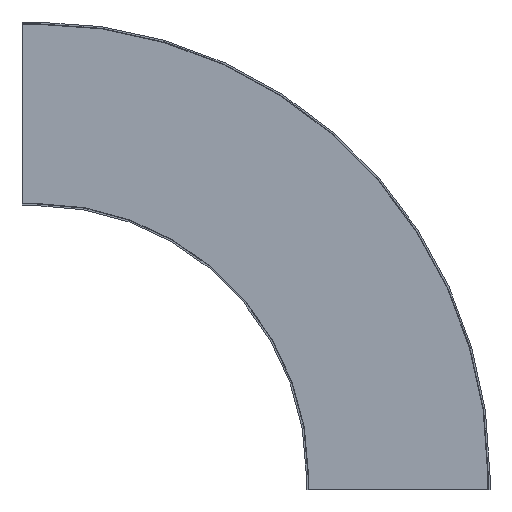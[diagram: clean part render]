
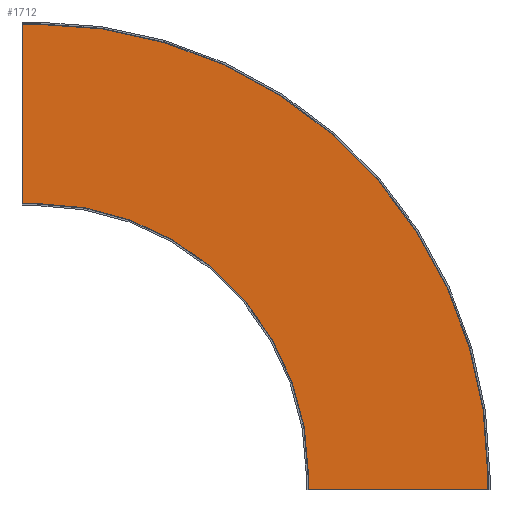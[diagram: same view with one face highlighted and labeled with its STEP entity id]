
A CAD part, front view. The second image highlights one B-rep face of the part: STEP entity #1712.
In plain terms, the highlighted planar face has unit normal (0, -1, 0).
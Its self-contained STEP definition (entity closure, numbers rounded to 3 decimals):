
#147 = CARTESIAN_POINT ( 'NONE',  ( 0., -68.25, 0. ) ) ;
#161 = CARTESIAN_POINT ( 'NONE',  ( -52.5, -68.25, 962.5 ) ) ;
#215 = DIRECTION ( 'NONE',  ( 1., 0., 0. ) ) ;
#298 = AXIS2_PLACEMENT_3D ( 'NONE', #1016, #2339, #1796 ) ;
#299 = DIRECTION ( 'NONE',  ( -1., 0., 0. ) ) ;
#401 = VECTOR ( 'NONE', #215, 1000. ) ;
#420 = EDGE_CURVE ( 'NONE', #2346, #1551, #446, .T. ) ;
#427 = VERTEX_POINT ( 'NONE', #1395 ) ;
#446 = LINE ( 'NONE', #2059, #2211 ) ;
#449 = CARTESIAN_POINT ( 'NONE',  ( 1597.5, -68.25, -52.5 ) ) ;
#499 = LINE ( 'NONE', #2061, #1492 ) ;
#538 = AXIS2_PLACEMENT_3D ( 'NONE', #147, #1491, #1864 ) ;
#565 = VERTEX_POINT ( 'NONE', #449 ) ;
#632 = ORIENTED_EDGE ( 'NONE', *, *, #885, .T. ) ;
#698 = FACE_OUTER_BOUND ( 'NONE', #1297, .T. ) ;
#703 = ORIENTED_EDGE ( 'NONE', *, *, #2179, .F. ) ;
#710 = ORIENTED_EDGE ( 'NONE', *, *, #1837, .F. ) ;
#716 = EDGE_CURVE ( 'NONE', #565, #427, #2208, .T. ) ;
#725 = LINE ( 'NONE', #787, #401 ) ;
#746 = DIRECTION ( 'NONE',  ( -1., 0., 0. ) ) ;
#787 = CARTESIAN_POINT ( 'NONE',  ( -52.5, -68.25, 1597.5 ) ) ;
#885 = EDGE_CURVE ( 'NONE', #1229, #1662, #2388, .T. ) ;
#935 = CARTESIAN_POINT ( 'NONE',  ( -52.5, -68.25, 962.5 ) ) ;
#1016 = CARTESIAN_POINT ( 'NONE',  ( 0., -68.25, 962.5 ) ) ;
#1110 = CARTESIAN_POINT ( 'NONE',  ( 0., -68.25, -52.5 ) ) ;
#1111 = CARTESIAN_POINT ( 'NONE',  ( 0., -68.25, 962.5 ) ) ;
#1123 = CIRCLE ( 'NONE', #2182, 1597.5 ) ;
#1135 = VECTOR ( 'NONE', #1260, 1000. ) ;
#1207 = VERTEX_POINT ( 'NONE', #1836 ) ;
#1229 = VERTEX_POINT ( 'NONE', #1111 ) ;
#1247 = EDGE_CURVE ( 'NONE', #2032, #1662, #499, .T. ) ;
#1260 = DIRECTION ( 'NONE',  ( 0., 0., 1. ) ) ;
#1297 = EDGE_LOOP ( 'NONE', ( #632, #1576, #710, #2326, #703, #2009, #1308, #2476 ) ) ;
#1308 = ORIENTED_EDGE ( 'NONE', *, *, #420, .F. ) ;
#1331 = LINE ( 'NONE', #1110, #2090 ) ;
#1370 = EDGE_CURVE ( 'NONE', #2346, #1229, #1852, .T. ) ;
#1391 = DIRECTION ( 'NONE',  ( 0., 0., 1. ) ) ;
#1395 = CARTESIAN_POINT ( 'NONE',  ( 1597.5, -68.25, 0. ) ) ;
#1491 = DIRECTION ( 'NONE',  ( 0., 1., 0. ) ) ;
#1492 = VECTOR ( 'NONE', #2049, 1000. ) ;
#1551 = VERTEX_POINT ( 'NONE', #1765 ) ;
#1576 = ORIENTED_EDGE ( 'NONE', *, *, #1247, .F. ) ;
#1641 = CARTESIAN_POINT ( 'NONE',  ( 1597.5, -68.25, -52.5 ) ) ;
#1662 = VERTEX_POINT ( 'NONE', #1780 ) ;
#1712 = ADVANCED_FACE ( 'NONE', ( #698 ), #2148, .F. ) ;
#1765 = CARTESIAN_POINT ( 'NONE',  ( -52.5, -68.25, 1597.5 ) ) ;
#1772 = CARTESIAN_POINT ( 'NONE',  ( 962.5, -68.25, -52.5 ) ) ;
#1780 = CARTESIAN_POINT ( 'NONE',  ( 962.5, -68.25, 0. ) ) ;
#1796 = DIRECTION ( 'NONE',  ( -1., 0., 0. ) ) ;
#1803 = CARTESIAN_POINT ( 'NONE',  ( 0., -68.25, 0. ) ) ;
#1836 = CARTESIAN_POINT ( 'NONE',  ( 0., -68.25, 1597.5 ) ) ;
#1837 = EDGE_CURVE ( 'NONE', #565, #2032, #1331, .T. ) ;
#1852 = LINE ( 'NONE', #935, #2142 ) ;
#1864 = DIRECTION ( 'NONE',  ( -1., 0., 0. ) ) ;
#1919 = DIRECTION ( 'NONE',  ( 1., 0., 0. ) ) ;
#1997 = DIRECTION ( 'NONE',  ( 0., 1., 0. ) ) ;
#2009 = ORIENTED_EDGE ( 'NONE', *, *, #2441, .F. ) ;
#2032 = VERTEX_POINT ( 'NONE', #1772 ) ;
#2049 = DIRECTION ( 'NONE',  ( 0., 0., 1. ) ) ;
#2059 = CARTESIAN_POINT ( 'NONE',  ( -52.5, -68.25, 0. ) ) ;
#2061 = CARTESIAN_POINT ( 'NONE',  ( 962.5, -68.25, -52.5 ) ) ;
#2090 = VECTOR ( 'NONE', #746, 1000. ) ;
#2142 = VECTOR ( 'NONE', #1919, 1000. ) ;
#2148 = PLANE ( 'NONE',  #298 ) ;
#2179 = EDGE_CURVE ( 'NONE', #1207, #427, #1123, .T. ) ;
#2182 = AXIS2_PLACEMENT_3D ( 'NONE', #1803, #1997, #299 ) ;
#2208 = LINE ( 'NONE', #1641, #1135 ) ;
#2211 = VECTOR ( 'NONE', #1391, 1000. ) ;
#2326 = ORIENTED_EDGE ( 'NONE', *, *, #716, .T. ) ;
#2339 = DIRECTION ( 'NONE',  ( 0., 1., 0. ) ) ;
#2346 = VERTEX_POINT ( 'NONE', #161 ) ;
#2388 = CIRCLE ( 'NONE', #538, 962.5 ) ;
#2441 = EDGE_CURVE ( 'NONE', #1551, #1207, #725, .T. ) ;
#2476 = ORIENTED_EDGE ( 'NONE', *, *, #1370, .T. ) ;
